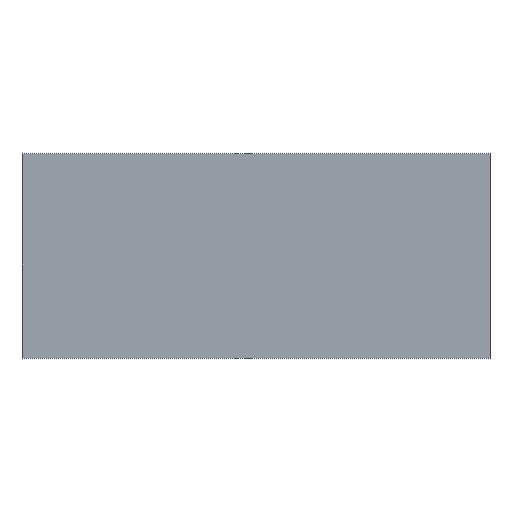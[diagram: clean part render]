
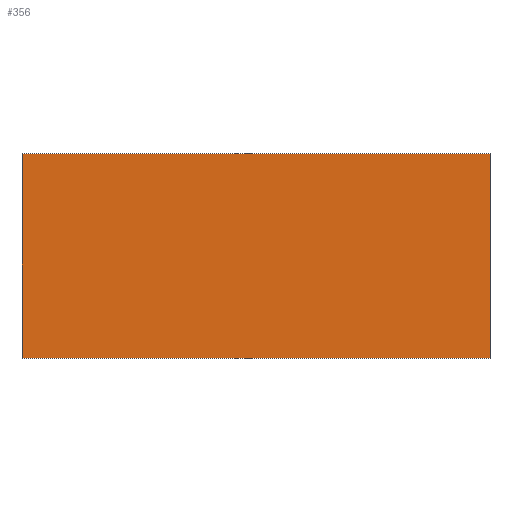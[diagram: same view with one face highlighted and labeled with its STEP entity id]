
A CAD part, top view. The second image highlights one B-rep face of the part: STEP entity #356.
In plain terms, the highlighted planar face has unit normal (0, 0, 1).
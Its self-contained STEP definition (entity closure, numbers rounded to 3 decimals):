
#42 = VERTEX_POINT('',#43);
#43 = CARTESIAN_POINT('',(0.,0.,0.6));
#50 = PLANE('',#51);
#51 = AXIS2_PLACEMENT_3D('',#52,#53,#54);
#52 = CARTESIAN_POINT('',(0.,0.,0.));
#53 = DIRECTION('',(1.,0.,-0.));
#54 = DIRECTION('',(0.,0.,1.));
#62 = PLANE('',#63);
#63 = AXIS2_PLACEMENT_3D('',#64,#65,#66);
#64 = CARTESIAN_POINT('',(0.,0.,0.));
#65 = DIRECTION('',(-0.,1.,0.));
#66 = DIRECTION('',(0.,0.,1.));
#103 = VERTEX_POINT('',#104);
#104 = CARTESIAN_POINT('',(0.,10.3,0.6));
#118 = PLANE('',#119);
#119 = AXIS2_PLACEMENT_3D('',#120,#121,#122);
#120 = CARTESIAN_POINT('',(0.,10.3,0.));
#121 = DIRECTION('',(-0.,1.,0.));
#122 = DIRECTION('',(0.,0.,1.));
#130 = EDGE_CURVE('',#42,#103,#131,.T.);
#131 = SURFACE_CURVE('',#132,(#136,#143),.PCURVE_S1.);
#132 = LINE('',#133,#134);
#133 = CARTESIAN_POINT('',(0.,0.,0.6));
#134 = VECTOR('',#135,1.);
#135 = DIRECTION('',(-0.,1.,0.));
#136 = PCURVE('',#50,#137);
#137 = DEFINITIONAL_REPRESENTATION('',(#138),#142);
#138 = LINE('',#139,#140);
#139 = CARTESIAN_POINT('',(0.6,0.));
#140 = VECTOR('',#141,1.);
#141 = DIRECTION('',(0.,-1.));
#142 = ( GEOMETRIC_REPRESENTATION_CONTEXT(2) 
PARAMETRIC_REPRESENTATION_CONTEXT() REPRESENTATION_CONTEXT('2D SPACE',''
  ) );
#143 = PCURVE('',#144,#149);
#144 = PLANE('',#145);
#145 = AXIS2_PLACEMENT_3D('',#146,#147,#148);
#146 = CARTESIAN_POINT('',(0.,0.,0.6));
#147 = DIRECTION('',(0.,0.,1.));
#148 = DIRECTION('',(1.,0.,-0.));
#149 = DEFINITIONAL_REPRESENTATION('',(#150),#154);
#150 = LINE('',#151,#152);
#151 = CARTESIAN_POINT('',(0.,0.));
#152 = VECTOR('',#153,1.);
#153 = DIRECTION('',(0.,1.));
#154 = ( GEOMETRIC_REPRESENTATION_CONTEXT(2) 
PARAMETRIC_REPRESENTATION_CONTEXT() REPRESENTATION_CONTEXT('2D SPACE',''
  ) );
#162 = VERTEX_POINT('',#163);
#163 = CARTESIAN_POINT('',(23.6,0.,0.6));
#170 = PLANE('',#171);
#171 = AXIS2_PLACEMENT_3D('',#172,#173,#174);
#172 = CARTESIAN_POINT('',(23.6,0.,0.));
#173 = DIRECTION('',(1.,0.,-0.));
#174 = DIRECTION('',(0.,0.,1.));
#213 = VERTEX_POINT('',#214);
#214 = CARTESIAN_POINT('',(23.6,10.3,0.6));
#235 = EDGE_CURVE('',#162,#213,#236,.T.);
#236 = SURFACE_CURVE('',#237,(#241,#248),.PCURVE_S1.);
#237 = LINE('',#238,#239);
#238 = CARTESIAN_POINT('',(23.6,0.,0.6));
#239 = VECTOR('',#240,1.);
#240 = DIRECTION('',(-0.,1.,0.));
#241 = PCURVE('',#170,#242);
#242 = DEFINITIONAL_REPRESENTATION('',(#243),#247);
#243 = LINE('',#244,#245);
#244 = CARTESIAN_POINT('',(0.6,0.));
#245 = VECTOR('',#246,1.);
#246 = DIRECTION('',(0.,-1.));
#247 = ( GEOMETRIC_REPRESENTATION_CONTEXT(2) 
PARAMETRIC_REPRESENTATION_CONTEXT() REPRESENTATION_CONTEXT('2D SPACE',''
  ) );
#248 = PCURVE('',#144,#249);
#249 = DEFINITIONAL_REPRESENTATION('',(#250),#254);
#250 = LINE('',#251,#252);
#251 = CARTESIAN_POINT('',(23.6,0.));
#252 = VECTOR('',#253,1.);
#253 = DIRECTION('',(0.,1.));
#254 = ( GEOMETRIC_REPRESENTATION_CONTEXT(2) 
PARAMETRIC_REPRESENTATION_CONTEXT() REPRESENTATION_CONTEXT('2D SPACE',''
  ) );
#281 = EDGE_CURVE('',#42,#162,#282,.T.);
#282 = SURFACE_CURVE('',#283,(#287,#294),.PCURVE_S1.);
#283 = LINE('',#284,#285);
#284 = CARTESIAN_POINT('',(0.,0.,0.6));
#285 = VECTOR('',#286,1.);
#286 = DIRECTION('',(1.,0.,-0.));
#287 = PCURVE('',#62,#288);
#288 = DEFINITIONAL_REPRESENTATION('',(#289),#293);
#289 = LINE('',#290,#291);
#290 = CARTESIAN_POINT('',(0.6,0.));
#291 = VECTOR('',#292,1.);
#292 = DIRECTION('',(0.,1.));
#293 = ( GEOMETRIC_REPRESENTATION_CONTEXT(2) 
PARAMETRIC_REPRESENTATION_CONTEXT() REPRESENTATION_CONTEXT('2D SPACE',''
  ) );
#294 = PCURVE('',#144,#295);
#295 = DEFINITIONAL_REPRESENTATION('',(#296),#300);
#296 = LINE('',#297,#298);
#297 = CARTESIAN_POINT('',(0.,0.));
#298 = VECTOR('',#299,1.);
#299 = DIRECTION('',(1.,0.));
#300 = ( GEOMETRIC_REPRESENTATION_CONTEXT(2) 
PARAMETRIC_REPRESENTATION_CONTEXT() REPRESENTATION_CONTEXT('2D SPACE',''
  ) );
#328 = EDGE_CURVE('',#103,#213,#329,.T.);
#329 = SURFACE_CURVE('',#330,(#334,#341),.PCURVE_S1.);
#330 = LINE('',#331,#332);
#331 = CARTESIAN_POINT('',(0.,10.3,0.6));
#332 = VECTOR('',#333,1.);
#333 = DIRECTION('',(1.,0.,-0.));
#334 = PCURVE('',#118,#335);
#335 = DEFINITIONAL_REPRESENTATION('',(#336),#340);
#336 = LINE('',#337,#338);
#337 = CARTESIAN_POINT('',(0.6,0.));
#338 = VECTOR('',#339,1.);
#339 = DIRECTION('',(0.,1.));
#340 = ( GEOMETRIC_REPRESENTATION_CONTEXT(2) 
PARAMETRIC_REPRESENTATION_CONTEXT() REPRESENTATION_CONTEXT('2D SPACE',''
  ) );
#341 = PCURVE('',#144,#342);
#342 = DEFINITIONAL_REPRESENTATION('',(#343),#347);
#343 = LINE('',#344,#345);
#344 = CARTESIAN_POINT('',(0.,10.3));
#345 = VECTOR('',#346,1.);
#346 = DIRECTION('',(1.,0.));
#347 = ( GEOMETRIC_REPRESENTATION_CONTEXT(2) 
PARAMETRIC_REPRESENTATION_CONTEXT() REPRESENTATION_CONTEXT('2D SPACE',''
  ) );
#356 = ADVANCED_FACE('',(#357),#144,.T.);
#357 = FACE_BOUND('',#358,.T.);
#358 = EDGE_LOOP('',(#359,#360,#361,#362));
#359 = ORIENTED_EDGE('',*,*,#130,.F.);
#360 = ORIENTED_EDGE('',*,*,#281,.T.);
#361 = ORIENTED_EDGE('',*,*,#235,.T.);
#362 = ORIENTED_EDGE('',*,*,#328,.F.);
